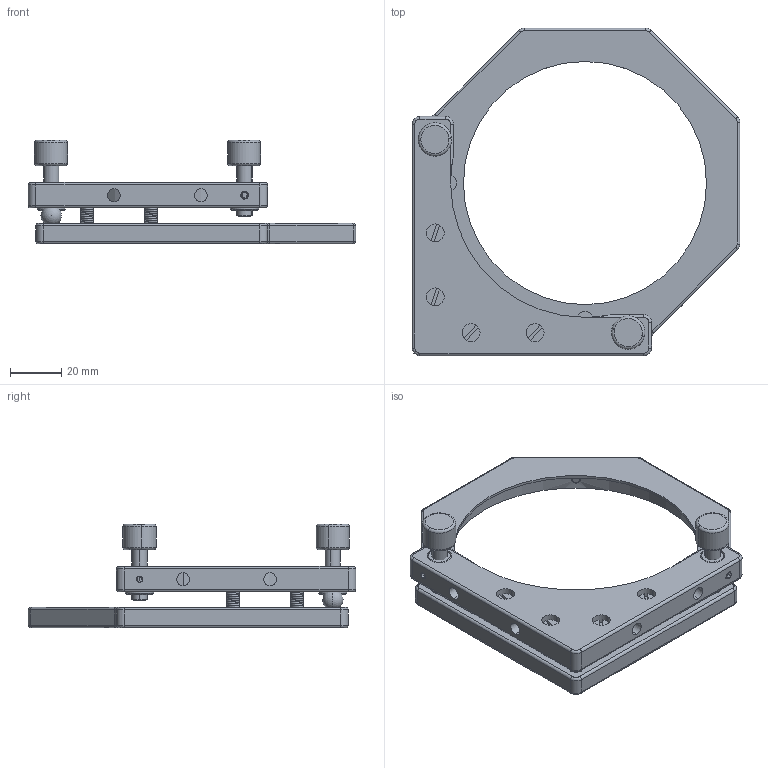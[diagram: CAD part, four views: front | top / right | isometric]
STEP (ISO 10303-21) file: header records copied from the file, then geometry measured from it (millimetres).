
FILE_DESCRIPTION (( 'STEP AP203' ), '1' );
FILE_NAME ('7MM07100謗峎覃淕噩殤.STEP', '2019-10-17T09:05:35', ( '' ), ( '' ), 'SwSTEP 2.0', 'SolidWorks 2014', '' );
FILE_SCHEMA (( 'CONFIG_CONTROL_DESIGN' ));
Length unit declared in the file: millimetre
Products named in the file (1): 7MM07100謗峎覃淕噩殤
Bounding box: 128 x 128 x 40.5 mm (x, y, z)
Surface area: 34235.3 mm2 (no closed solid volume)
Topology: 0 solids, 34 shells, 273 faces, 720 edges, 472 vertices
Faces by surface type: cylinder 110, plane 97, torus 36, cone 20, bspline 8, sphere 2
Entity records: 19015 total; most frequent: CARTESIAN_POINT 12148, DIRECTION 1577, ORIENTED_EDGE 1186, EDGE_CURVE 709, AXIS2_PLACEMENT_3D 640, VERTEX_POINT 469, CIRCLE 374, EDGE_LOOP 320
